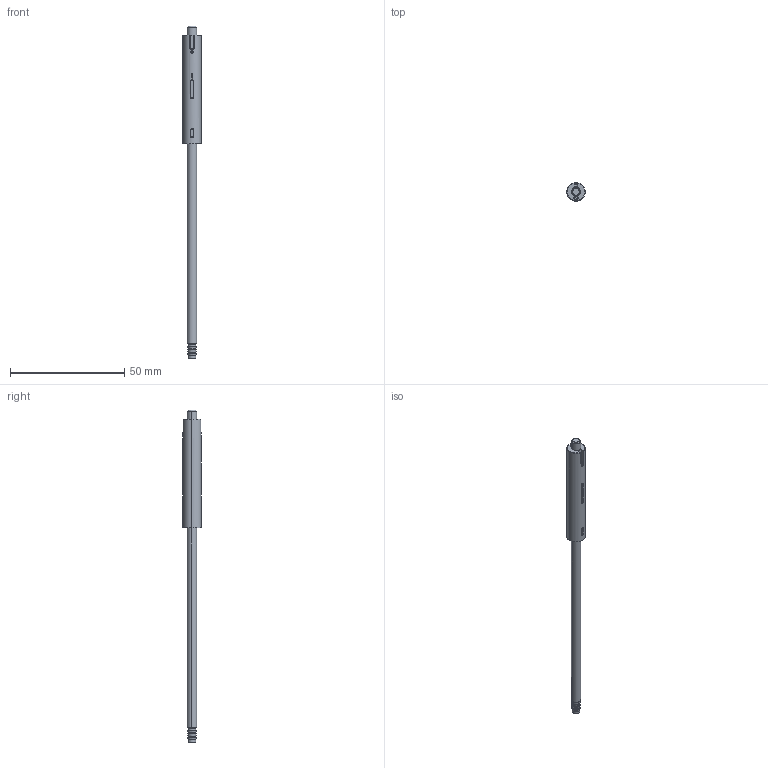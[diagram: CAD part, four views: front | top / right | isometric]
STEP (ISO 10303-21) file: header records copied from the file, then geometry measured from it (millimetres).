
FILE_DESCRIPTION(('CATIA V5 STEP'),'2;1');
FILE_NAME('C:\Users\Administrator\Desktop\阀杆修改凹槽尺寸.stp','2020-12-30T08:27:40+00:00',('none'),('none'),'CATIA Version 5 Release 20 GA (IN-10)','CATIA V5 STEP AP214','none');
FILE_SCHEMA(('AUTOMOTIVE_DESIGN { 1 0 10303 214 1 1 1 1 }'));
Length unit declared in the file: millimetre
Products named in the file (1): BPC0010083
Bounding box: 8 x 8 x 145 mm (x, y, z)
Volume: 3501.8 mm3; surface area: 3779.9 mm2
Topology: 2 solids, 2 shells, 163 faces, 389 edges, 229 vertices
Faces by surface type: cylinder 68, plane 40, bspline 24, sphere 12, cone 12, torus 7
Entity records: 6400 total; most frequent: CARTESIAN_POINT 2176, ORIENTED_EDGE 754, DIRECTION 520, EDGE_CURVE 377, AXIS2_PLACEMENT_3D 253, VERTEX_POINT 229, EDGE_LOOP 176, ADVANCED_FACE 163
